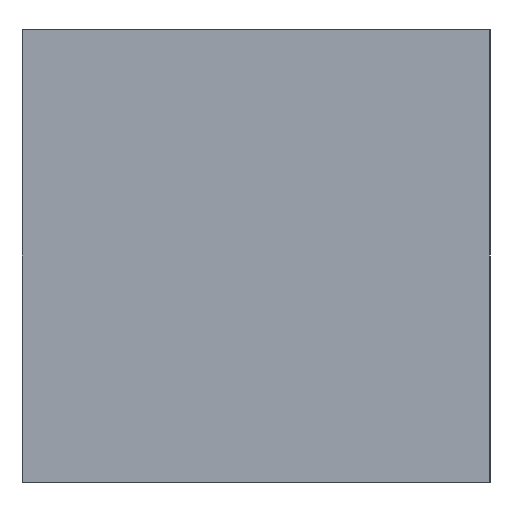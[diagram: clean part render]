
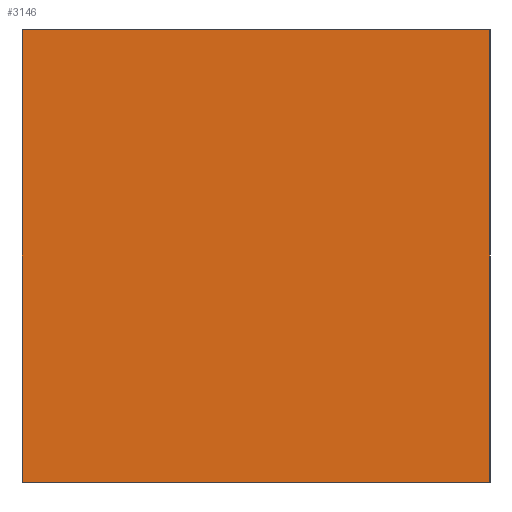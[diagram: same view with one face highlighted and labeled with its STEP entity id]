
A CAD part, left-side view. The second image highlights one B-rep face of the part: STEP entity #3146.
In plain terms, the highlighted planar face has unit normal (-1, 0, 0).
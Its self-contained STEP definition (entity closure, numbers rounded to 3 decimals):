
#125 = LINE ( 'NONE', #1657, #3290 ) ;
#551 = EDGE_CURVE ( 'NONE', #3286, #1176, #863, .T. ) ;
#557 = ORIENTED_EDGE ( 'NONE', *, *, #1744, .T. ) ;
#567 = CARTESIAN_POINT ( 'NONE',  ( -182., 25.5, 49.3 ) ) ;
#832 = DIRECTION ( 'NONE',  ( 1., 0., 0. ) ) ;
#840 = DIRECTION ( 'NONE',  ( 0., -1., 0. ) ) ;
#863 = LINE ( 'NONE', #1763, #2047 ) ;
#1176 = VERTEX_POINT ( 'NONE', #2502 ) ;
#1407 = CARTESIAN_POINT ( 'NONE',  ( -182., 25.5, 49.3 ) ) ;
#1448 = EDGE_CURVE ( 'NONE', #1685, #1176, #125, .T. ) ;
#1647 = DIRECTION ( 'NONE',  ( 0., 0., -1. ) ) ;
#1657 = CARTESIAN_POINT ( 'NONE',  ( -182., -25.5, 49.3 ) ) ;
#1685 = VERTEX_POINT ( 'NONE', #2825 ) ;
#1740 = EDGE_CURVE ( 'NONE', #3481, #1685, #3067, .T. ) ;
#1744 = EDGE_CURVE ( 'NONE', #3481, #3286, #2519, .T. ) ;
#1763 = CARTESIAN_POINT ( 'NONE',  ( -182., 25.5, 0. ) ) ;
#1926 = DIRECTION ( 'NONE',  ( 0., 0., -1. ) ) ;
#1940 = CARTESIAN_POINT ( 'NONE',  ( -182., 25.5, 0. ) ) ;
#2047 = VECTOR ( 'NONE', #3355, 1000. ) ;
#2049 = AXIS2_PLACEMENT_3D ( 'NONE', #567, #832, #1647 ) ;
#2179 = PLANE ( 'NONE',  #2049 ) ;
#2347 = ORIENTED_EDGE ( 'NONE', *, *, #1448, .F. ) ;
#2394 = VECTOR ( 'NONE', #2724, 1000. ) ;
#2502 = CARTESIAN_POINT ( 'NONE',  ( -182., -25.5, 0. ) ) ;
#2519 = LINE ( 'NONE', #1407, #2394 ) ;
#2601 = ORIENTED_EDGE ( 'NONE', *, *, #551, .T. ) ;
#2712 = CARTESIAN_POINT ( 'NONE',  ( -182., 25.5, 49.3 ) ) ;
#2724 = DIRECTION ( 'NONE',  ( 0., 0., -1. ) ) ;
#2815 = EDGE_LOOP ( 'NONE', ( #2601, #2347, #2933, #557 ) ) ;
#2825 = CARTESIAN_POINT ( 'NONE',  ( -182., -25.5, 49.3 ) ) ;
#2933 = ORIENTED_EDGE ( 'NONE', *, *, #1740, .F. ) ;
#3067 = LINE ( 'NONE', #3267, #3200 ) ;
#3114 = FACE_OUTER_BOUND ( 'NONE', #2815, .T. ) ;
#3146 = ADVANCED_FACE ( 'NONE', ( #3114 ), #2179, .F. ) ;
#3200 = VECTOR ( 'NONE', #840, 1000. ) ;
#3267 = CARTESIAN_POINT ( 'NONE',  ( -182., 25.5, 49.3 ) ) ;
#3286 = VERTEX_POINT ( 'NONE', #1940 ) ;
#3290 = VECTOR ( 'NONE', #1926, 1000. ) ;
#3355 = DIRECTION ( 'NONE',  ( 0., -1., 0. ) ) ;
#3481 = VERTEX_POINT ( 'NONE', #2712 ) ;
